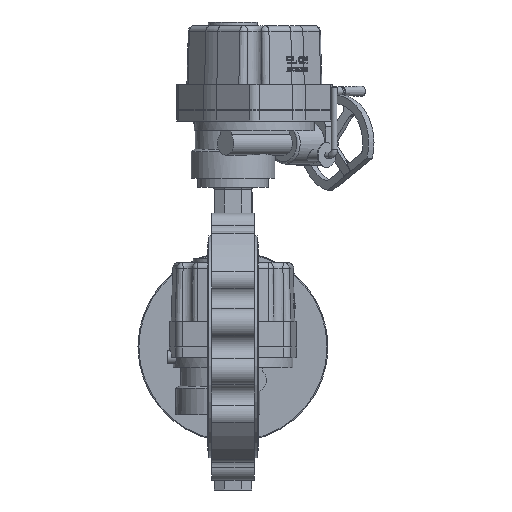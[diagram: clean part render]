
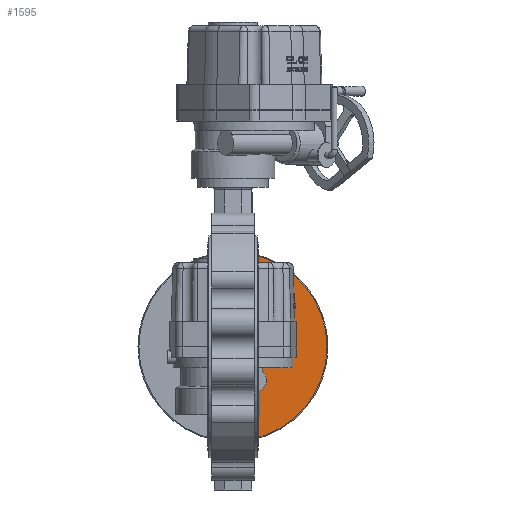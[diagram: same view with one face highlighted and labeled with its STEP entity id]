
A CAD part, left-side view. The second image highlights one B-rep face of the part: STEP entity #1595.
In plain terms, the highlighted planar face has unit normal (-1, 0, 0).
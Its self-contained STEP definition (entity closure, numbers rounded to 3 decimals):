
#1595 = ADVANCED_FACE( '', ( #3377 ), #3378, .T. );
#3377 = FACE_OUTER_BOUND( '', #9623, .T. );
#3378 = PLANE( '', #9624 );
#9623 = EDGE_LOOP( '', ( #14300, #14301 ) );
#9624 = AXIS2_PLACEMENT_3D( '', #14302, #14303, #14304 );
#14300 = ORIENTED_EDGE( '', *, *, #15198, .T. );
#14301 = ORIENTED_EDGE( '', *, *, #15177, .T. );
#14302 = CARTESIAN_POINT( '', ( -6., 0., 0. ) );
#14303 = DIRECTION( '', ( -1., 0., 0. ) );
#14304 = DIRECTION( '', ( 0., -1., 0. ) );
#15177 = EDGE_CURVE( '', #17445, #17447, #17449, .T. );
#15198 = EDGE_CURVE( '', #17447, #17445, #17483, .F. );
#17445 = VERTEX_POINT( '', #23587 );
#17447 = VERTEX_POINT( '', #23589 );
#17449 = CIRCLE( '', #23591, 199. );
#17483 = LINE( '', #23705, #23706 );
#23587 = CARTESIAN_POINT( '', ( -6., -34.598, -195.969 ) );
#23589 = CARTESIAN_POINT( '', ( -6., -34.598, 195.969 ) );
#23591 = AXIS2_PLACEMENT_3D( '', #29496, #29497, #29498 );
#23705 = CARTESIAN_POINT( '', ( -6., -34.598, -199.529 ) );
#23706 = VECTOR( '', #29522, 1000. );
#29496 = CARTESIAN_POINT( '', ( -6., 0., 0. ) );
#29497 = DIRECTION( '', ( -1., 0., 0. ) );
#29498 = DIRECTION( '', ( 0., -1., 0. ) );
#29522 = DIRECTION( '', ( 0., 0., 1. ) );
